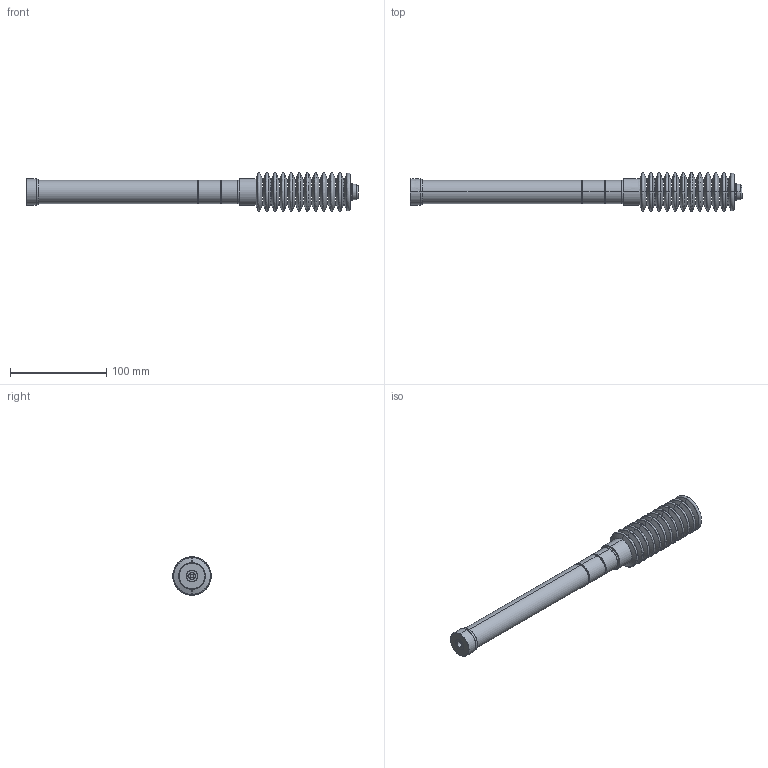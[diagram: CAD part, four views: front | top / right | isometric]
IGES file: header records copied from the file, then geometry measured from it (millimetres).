
Start section: SolidWorks IGES file using analytic representation for surfaces
Global section: file name: D:\IGS跡宒\HR60-FCZ.IGS,1; native system: 5HSolidWorks 2013; preprocessor: SolidWorks 2013; author: Administrator; date: 160406.154009; units: inch
Bounding box: 345.6 x 40 x 40 mm (x, y, z)
Surface area: 42608.2 mm2 (no closed solid volume)
Topology: 0 solids, 0 shells, 128 faces, 1605 edges, 1603 vertices
Faces by surface type: revolution 88, bspline 40
